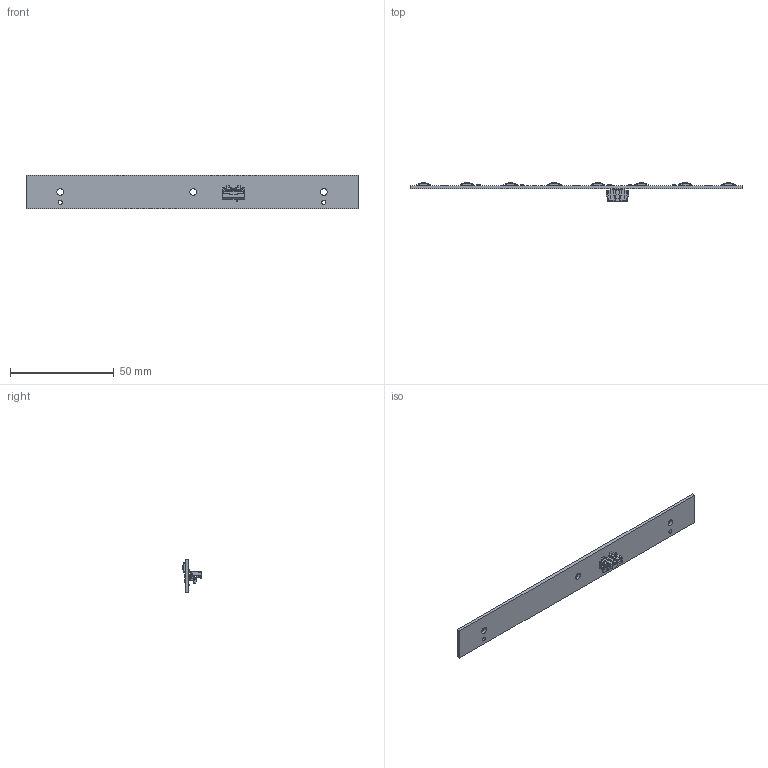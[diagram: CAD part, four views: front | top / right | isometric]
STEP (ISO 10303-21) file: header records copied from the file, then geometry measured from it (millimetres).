
FILE_DESCRIPTION((''),'2;1');
FILE_NAME('BUTTON_PCB_ASSY_20200720_ASM_1__ASM','2020-12-01T',('g6007893'),(''),'PRO/ENGINEER BY PARAMETRIC TECHNOLOGY CORPORATION, 2013320','PRO/ENGINEER BY PARAMETRIC TECHNOLOGY CORPORATION, 2013320','');
FILE_SCHEMA(('AUTOMOTIVE_DESIGN { 1 0 10303 214 1 1 1 1 }'));
Products named in the file (11): BUTTON_PCB_16_1_1_1; TACT_SWITCH_3_1_1_1_1; 5022311500; BUTTON_PCB_ASSY_ASM_12_ASM_1_AS_ASM; C-0402S0; C-0201S1; R-0402S0; 96_1517T00-025-1201-1111_BOTTOM; 96_1517T00-025-1201-1111_TOP; 96_1517T00-025-1201-1111_ASM; BUTTON_PCB_ASSY_20200720_ASM_1__ASM
Assembly tree (32 placements, depth 3):
  BUTTON_PCB_ASSY_20200720_ASM_1__ASM
    BUTTON_PCB_ASSY_ASM_12_ASM_1_AS_ASM
      BUTTON_PCB_16_1_1_1
      TACT_SWITCH_3_1_1_1_1  x8
      5022311500
    96_1517T00-025-1201-1111_ASM
      C-0402S0  x8
      C-0201S1
      R-0402S0  x9
      96_1517T00-025-1201-1111_BOTTOM
      96_1517T00-025-1201-1111_TOP
Bounding box: 160 x 9.15 x 16 mm (x, y, z)
Volume: 4398.9 mm3; surface area: 6992.7 mm2
Topology: 28 solids, 28 shells, 1813 faces, 7900 edges, 7816 vertices
Faces by surface type: plane 1445, cylinder 288, bspline 48, sphere 32
Entity records: 59235 total; most frequent: CARTESIAN_POINT 9366, DIRECTION 8480, ORIENTED_EDGE 6124, VECTOR 5096, LINE 5096, EDGE_CURVE 3062, PRESENTATION_STYLE_ASSIGNMENT 2881, STYLED_ITEM 2881
